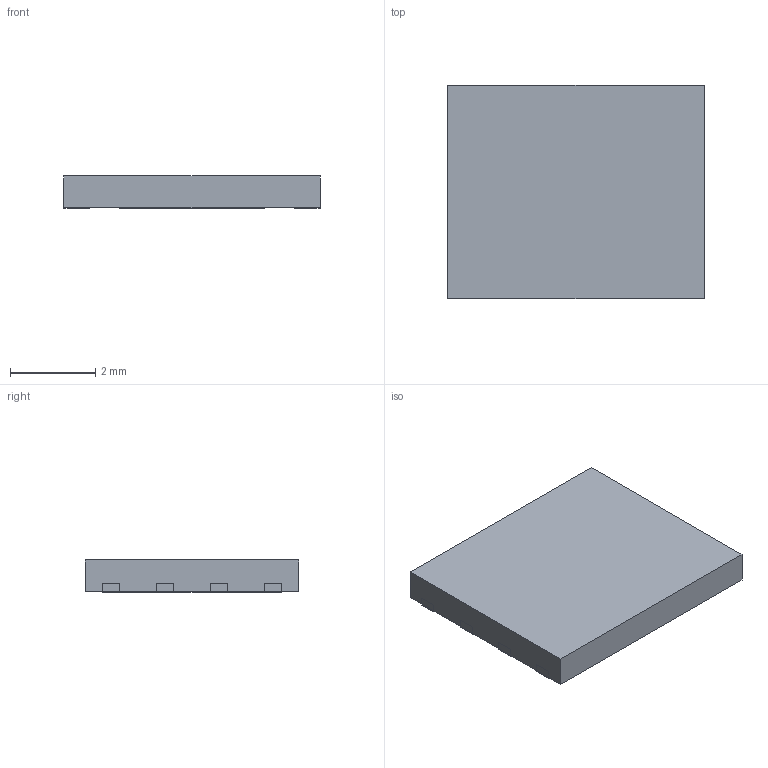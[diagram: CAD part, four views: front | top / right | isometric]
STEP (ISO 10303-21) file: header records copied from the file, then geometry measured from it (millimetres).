
FILE_DESCRIPTION(('Codex nominal ISSI JK WSON8 model. RevA8 p177. Not vendor qualification.'),'2;1');
FILE_NAME('ISSI_WSON8_6x5mm_JK_Nominal.step','2026-10-21T00:00:00',('Codex'),('Howard FPGA PCB'),'Codex analytic STEP writer','Codex','');
FILE_SCHEMA(('AUTOMOTIVE_DESIGN { 1 0 10303 214 1 1 1 1 }'));
Length unit declared in the file: millimetre
Products named in the file (1): ISSI_WSON8_6x5mm_JK_Nominal
Bounding box: 6 x 5 x 0.75 mm (x, y, z)
Surface area: 113.3 mm2
Topology: 10 solids, 10 shells, 60 faces, 120 edges, 80 vertices
Faces by surface type: plane 60
Entity records: 1416 total; most frequent: DIRECTION 242, ORIENTED_EDGE 240, VECTOR 120, LINE 120, EDGE_CURVE 120, CARTESIAN_POINT 81, VERTEX_POINT 80, AXIS2_PLACEMENT_3D 61
